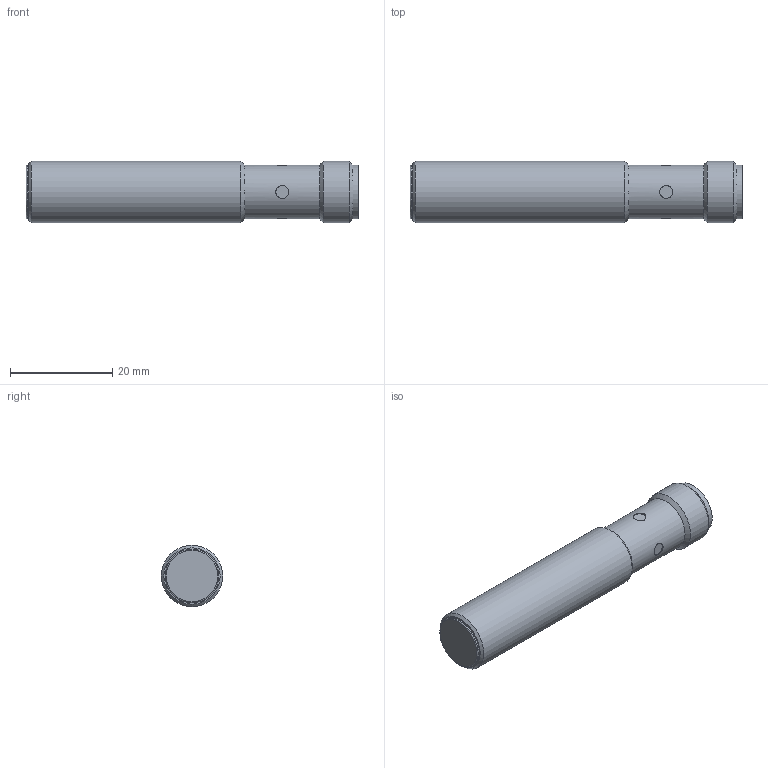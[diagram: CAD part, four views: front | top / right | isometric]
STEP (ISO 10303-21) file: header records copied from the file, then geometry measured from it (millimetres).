
FILE_DESCRIPTION( ( 'Unknown' ), '1' );
FILE_NAME( '//SRVMDFS14/Dati_CAD/Arch_Dis_Prodotti/Definitivi/Conversione_Fig/STP/AM1_AN_1H_fig.stp', 'Unknown', ( 'Unknown' ), ( 'Unknown' ), 'PSStep 16.0.42', 'Unknown', ' ' );
FILE_SCHEMA( ( 'AUTOMOTIVE_DESIGN { 1 0 10303 214 1 1 1 1 }' ) );
Length unit declared in the file: millimetre
Products named in the file (4): Assem1
Assembly tree (3 placements, depth 2):
  Assem1
    (unnamed)
    (unnamed)
    (unnamed)
Bounding box: 64.8 x 12 x 12 mm (x, y, z)
Volume: 5649.3 mm3; surface area: 4206.1 mm2
Topology: 3 solids, 3 shells, 77 faces, 193 edges, 124 vertices
Faces by surface type: cylinder 36, plane 26, cone 9, sphere 4, torus 2
Full cylindrical faces by diameter (mm): 1 x4, 2.5 x4, 8.4 x1, 9.6 x1, 9.7 x1, 9.8 x1, 10.5 x3, 12 x2
Entity records: 2598 total; most frequent: CARTESIAN_POINT 478, DIRECTION 372, ORIENTED_EDGE 272, AXIS2_PLACEMENT_3D 160, EDGE_CURVE 136, EDGE_LOOP 116, VERTEX_POINT 104, FACE_OUTER_BOUND 96
